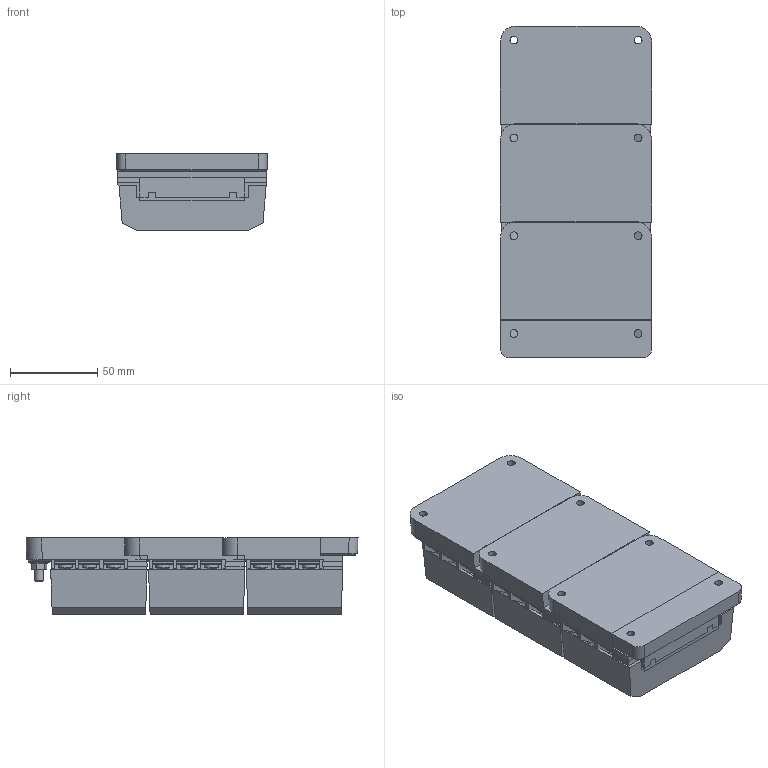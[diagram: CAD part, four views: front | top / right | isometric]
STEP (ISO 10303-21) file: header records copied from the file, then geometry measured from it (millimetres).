
FILE_DESCRIPTION(/* description */ (''),/* implementation_level */ '2;1');
FILE_NAME(/* name */ '5f9734534d84751236ac6b50',/* time_stamp */ '2020-10-26T20:40:52+00:00',/* author */ (''),/* organization */ (''),/* preprocessor_version */ 'ST-DEVELOPER v16.7',/* originating_system */ $,/* authorisation */ $);
FILE_SCHEMA (('AUTOMOTIVE_DESIGN {1 0 10303 214 3 1 1}'));
Length unit declared in the file: metre
Products named in the file (10): 8032; Part 1; 8028 No Filler <3>; PH Pan head screw M4x0.70 x 8; Hex flange nut M5x0.80; Socket button head screw M5x0.8 x 12; 8028 No Filler <1>; 8028 No Filler <2>
Assembly tree (34 placements, depth 3):
  8032
    Part 1
    8028 No Filler <3>
      PH Pan head screw M4x0.70 x 8  x6
      Part 1
      Hex flange nut M5x0.80
      Socket button head screw M5x0.8 x 12
      Part 1
    8028 No Filler <1>
      PH Pan head screw M4x0.70 x 8  x6
      Socket button head screw M5x0.8 x 12
      Hex flange nut M5x0.80
      Part 1
      Part 1
    8028 No Filler <2>
      Hex flange nut M5x0.80
      Part 1
      PH Pan head screw M4x0.70 x 8  x6
      Socket button head screw M5x0.8 x 12
      Part 1
Bounding box: 86.5 x 190.06 x 43.7 mm (x, y, z)
Volume: 403132.7 mm3; surface area: 141492.3 mm2
Topology: 31 solids, 31 shells, 1998 faces, 5303 edges, 3475 vertices
Faces by surface type: plane 1557, cylinder 295, cone 75, bspline 26, torus 24, sphere 21
Full cylindrical faces by diameter (mm): 3.175 x18, 3.2 x18, 3.962 x3, 4 x18, 4.134 x3, 4.42 x2, 4.45 x6, 5 x3, 7.1 x6, 8 x18, 8.5 x6
Entity records: 16081 total; most frequent: CARTESIAN_POINT 3085, ORIENTED_EDGE 2608, DIRECTION 2551, EDGE_CURVE 1304, LINE 1015, VECTOR 1015, VERTEX_POINT 877, AXIS2_PLACEMENT_3D 768
